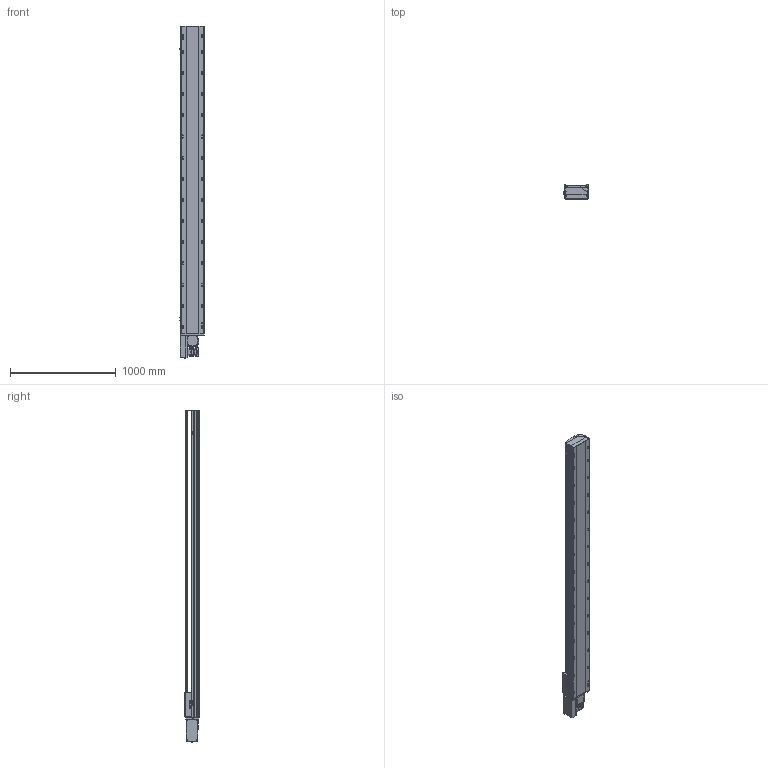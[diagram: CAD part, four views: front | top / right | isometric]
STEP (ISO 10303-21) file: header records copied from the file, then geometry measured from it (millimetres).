
FILE_DESCRIPTION (( 'STEP AP214' ), '1' );
FILE_NAME ('TPT22M-L40-2550-R-T75-C4.STEP', '2023-04-12T05:41:16', ( '' ), ( '' ), 'SwSTEP 2.0', 'SolidWorks 2020', '' );
FILE_SCHEMA (( 'AUTOMOTIVE_DESIGN' ));
Length unit declared in the file: millimetre
Products named in the file (9): 葩璃 pm-t65-672^TPT22M-L40-R-T75-C4; 葩璃 TPT22-L-005 賑釱MZ-220-03^TPT22M-L40-R-T75-C4; 葩璃 TPT22-L-009 萇儂啣^TPT22M-L40-R-T75-C4; TPT22M-L40-2550-R-T75-C4; 葩璃 TPT22-L-007 々湍釱^TPT22M-L40-R-T75-C4; hexagon head bolts-full thread gb_GB_FASTENER_BOLT_STBAB A M5X16-N; 葩璃 MSMD08PC_P75^TPT22M-L40-R-T75-C4; 葩璃 TPT22-L-001 菁釱MZ-220-01^TPT22M-L40-R-T75-C4; 葩璃 TPT22-L-002 奻裔MZ-220-02^TPT22M-L40-R-T75-C4
Assembly tree (10 placements, depth 2):
  TPT22M-L40-2550-R-T75-C4
    葩璃 TPT22-L-001 菁釱MZ-220-01^TPT22M-L40-R-T75-C4
    葩璃 TPT22-L-002 奻裔MZ-220-02^TPT22M-L40-R-T75-C4
    葩璃 TPT22-L-005 賑釱MZ-220-03^TPT22M-L40-R-T75-C4
    葩璃 TPT22-L-007 々湍釱^TPT22M-L40-R-T75-C4
    葩璃 TPT22-L-009 萇儂啣^TPT22M-L40-R-T75-C4
    葩璃 pm-t65-672^TPT22M-L40-R-T75-C4  x3
    葩璃 MSMD08PC_P75^TPT22M-L40-R-T75-C4
    hexagon head bolts-full thread gb_GB_FASTENER_BOLT_STBAB A M5X16-N
Bounding box: 238.7 x 134 x 3139.65 mm (x, y, z)
Volume: 40370443.5 mm3; surface area: 3997615.8 mm2
Topology: 17 solids, 17 shells, 1907 faces, 5013 edges, 3193 vertices
Faces by surface type: plane 993, cylinder 740, cone 152, bspline 22
Entity records: 54987 total; most frequent: CARTESIAN_POINT 10973, DIRECTION 8920, ORIENTED_EDGE 8506, EDGE_CURVE 4253, AXIS2_PLACEMENT_3D 3111, VERTEX_POINT 2765, VECTOR 2698, LINE 2698
